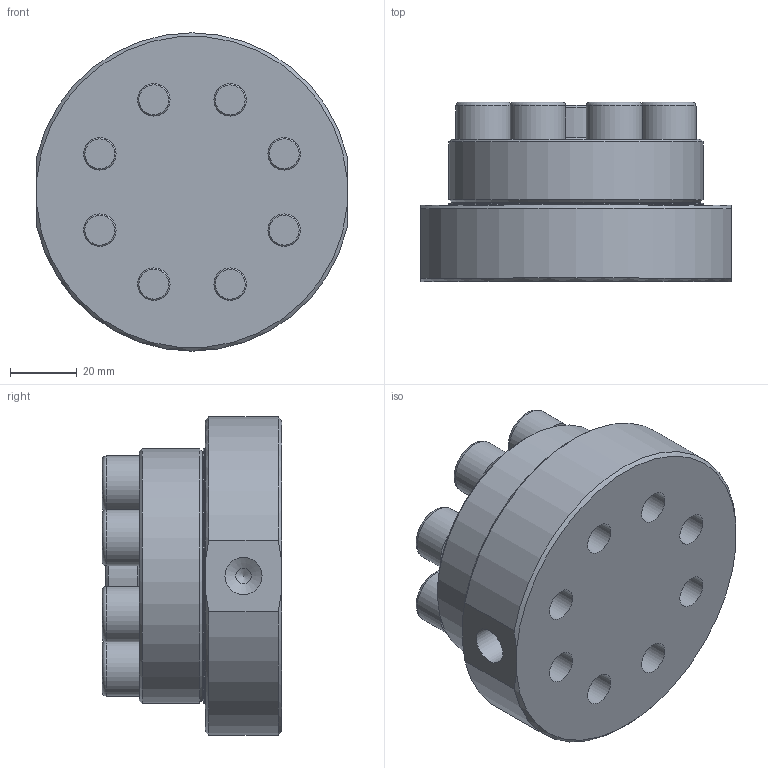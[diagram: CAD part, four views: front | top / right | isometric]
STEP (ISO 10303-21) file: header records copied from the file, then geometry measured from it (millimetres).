
FILE_DESCRIPTION(/* description */ (''),/* implementation_level */ '2;1');
FILE_NAME(/* name */ 'Z:\Models\Instrument Series\EB1HP1\H10P2_U10L2_External_R8.stp',/* time_stamp */ '2016-06-02T08:38:01-04:00',/* author */ ('Owner'),/* organization */ (''),/* preprocessor_version */ 'ST-DEVELOPER v15.6',/* originating_system */ 'Autodesk Inventor 2015',/* authorisation */ '');
FILE_SCHEMA (('CONFIG_CONTROL_DESIGN'));
Length unit declared in the file: inch
Products named in the file (7): U10L2 External; H10P1 RC (EHP1 RC); EHP 7(_FS)16(_DQ) Bolts; O-27; O-29; ANSI B18.3 - 7_16-14 UNC - 1.25(31); EHP SB8
Bounding box: 92.81 x 53.66 x 95.25 mm (x, y, z)
Volume: 260533.2 mm3; surface area: 73216.2 mm2
Topology: 13 solids, 13 shells, 203 faces, 478 edges, 311 vertices
Faces by surface type: plane 94, cylinder 57, cone 29, torus 23
Full cylindrical faces by diameter (mm): 0.762 x1, 4.572 x2, 8.611 x1, 9.728 x8, 11.112 x10, 11.506 x16, 16.662 x8, 30.48 x1, 31.318 x1, 36.373 x2, 41.377 x1, 76.2 x2
Entity records: 2789 total; most frequent: DIRECTION 488, CARTESIAN_POINT 468, ORIENTED_EDGE 332, AXIS2_PLACEMENT_3D 226, EDGE_LOOP 212, EDGE_CURVE 166, VERTEX_POINT 140, FACE_BOUND 114
